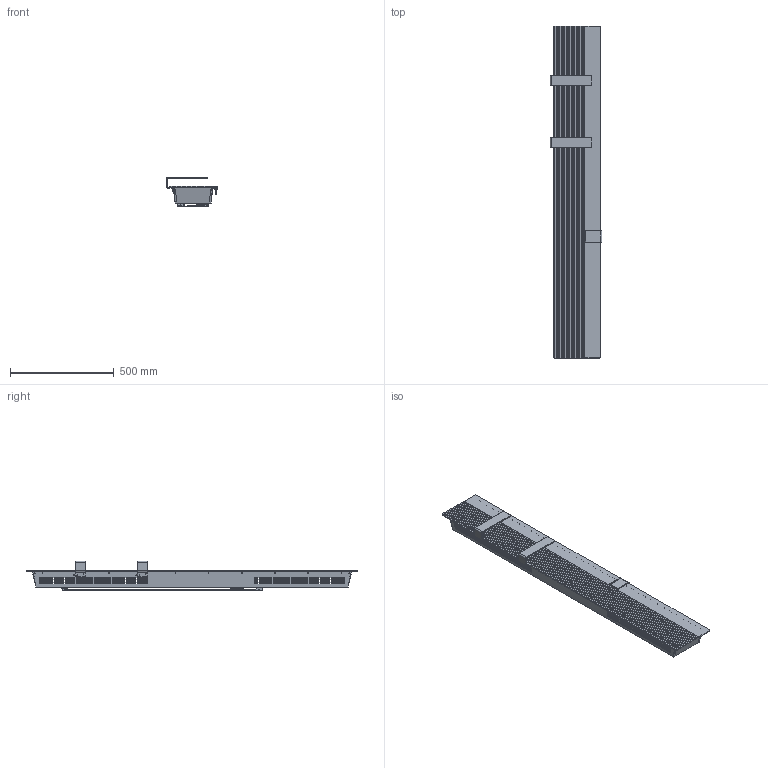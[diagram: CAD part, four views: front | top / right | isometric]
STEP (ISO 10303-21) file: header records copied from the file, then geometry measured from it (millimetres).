
FILE_DESCRIPTION(('FreeCAD Model'),'2;1');
FILE_NAME('Open CASCADE Shape Model','2026-06-16T14:39:23',(''),(''), 'Open CASCADE STEP processor 7.8','FreeCAD','Unknown');
FILE_SCHEMA(('AUTOMOTIVE_DESIGN { 1 0 10303 214 1 1 1 1 }'));
Length unit declared in the file: millimetre
Products named in the file (13): Unnamed; MIK_GR-POSTERIORE-1000_ASM; MIK_POSTERIORE-1000; DEK_AGGANCIO-SUPPORTO; ONS_GR-COMANDI_ASM; ONS_FONDO-SCATOLA-COMANDI; ONS_MASCHERINA-COMANDI; MIK_FRONTALE-1000; MIK_BARRA-PORTASALVIETTE; MIK_GR-SUPPORTO-MIKADO-1000_ASM; MIK_SUPPORTO-MURALE_25-MIKADO; ICO_TRAVERSA-SUPPORTO-2000W; MIK_SUPPORTO-MURALE-IN_25-MIK
Assembly tree (14 placements, depth 3):
  Unnamed
    MIK_GR-POSTERIORE-1000_ASM
      MIK_POSTERIORE-1000
      DEK_AGGANCIO-SUPPORTO  x2
    ONS_GR-COMANDI_ASM
      ONS_FONDO-SCATOLA-COMANDI
    ONS_MASCHERINA-COMANDI
    MIK_FRONTALE-1000
    MIK_BARRA-PORTASALVIETTE  x2
    MIK_GR-SUPPORTO-MIKADO-1000_ASM
      MIK_SUPPORTO-MURALE_25-MIKADO
      ICO_TRAVERSA-SUPPORTO-2000W
      MIK_SUPPORTO-MURALE-IN_25-MIK
Bounding box: 248.66 x 1600 x 142.2 mm (x, y, z)
Volume: 2217052.8 mm3; surface area: 2148641.8 mm2
Topology: 11 solids, 11 shells, 2338 faces, 6514 edges, 4162 vertices
Faces by surface type: plane 1373, cylinder 660, bspline 162, cone 80, torus 51, sphere 12
Entity records: 83872 total; most frequent: CARTESIAN_POINT 26570, ORIENTED_EDGE 12576, DIRECTION 10703, EDGE_CURVE 6288, LINE 4279, VECTOR 4279, VERTEX_POINT 4034, AXIS2_PLACEMENT_3D 3212
